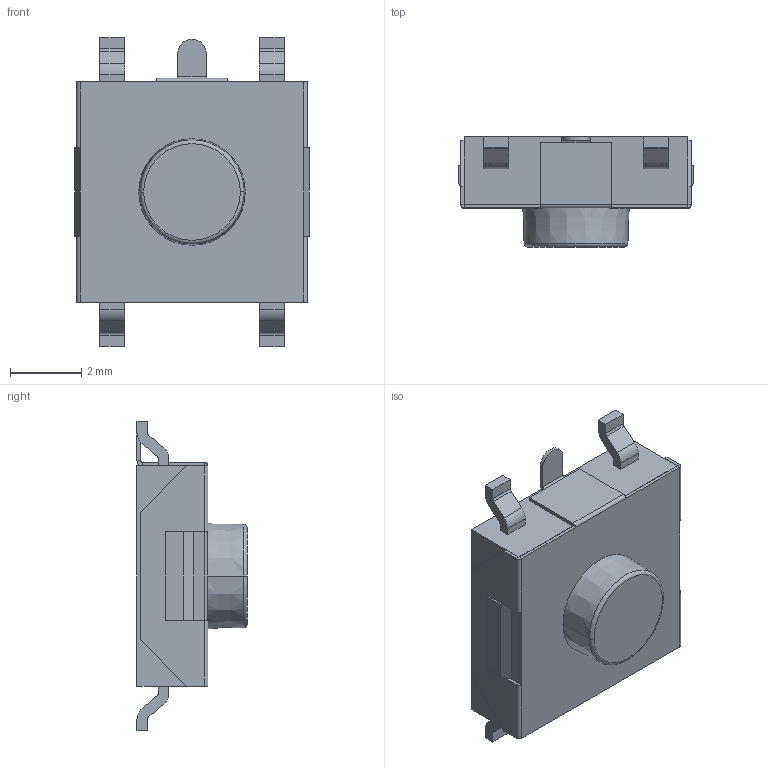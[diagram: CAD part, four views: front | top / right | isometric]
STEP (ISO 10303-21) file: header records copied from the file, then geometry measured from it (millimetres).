
FILE_DESCRIPTION((''),'2;1');
FILE_NAME('JQA6265-B0312-01AG-1-101_ASM','2026-05-22T18:12:05',('Admin'),(''),'CREO PARAMETRIC BY PTC INC, 2019224','CREO PARAMETRIC BY PTC INC, 2019224','');
FILE_SCHEMA(('AUTOMOTIVE_DESIGN { 1 0 10303 214 1 1 1 1 }'));
Length unit declared in the file: millimetre
Products named in the file (3): JQA6265-B0312-01AG-1-101_01; JQA6265-B0312-01AG-1-101_04; JQA6265-B0312-01AG-1-101_ASM
Assembly tree (2 placements, depth 2):
  JQA6265-B0312-01AG-1-101_ASM
    JQA6265-B0312-01AG-1-101_01
    JQA6265-B0312-01AG-1-101_04
Bounding box: 6.6 x 3.1 x 8.7 mm (x, y, z)
Volume: 89.2 mm3; surface area: 256.4 mm2
Topology: 2 solids, 2 shells, 132 faces, 327 edges, 204 vertices
Faces by surface type: plane 102, cylinder 26, cone 2, torus 2
Entity records: 5311 total; most frequent: CARTESIAN_POINT 677, DIRECTION 673, ORIENTED_EDGE 650, EDGE_CURVE 325, VECTOR 267, LINE 267, PRESENTATION_STYLE_ASSIGNMENT 253, AXIS2_PLACEMENT_3D 203
